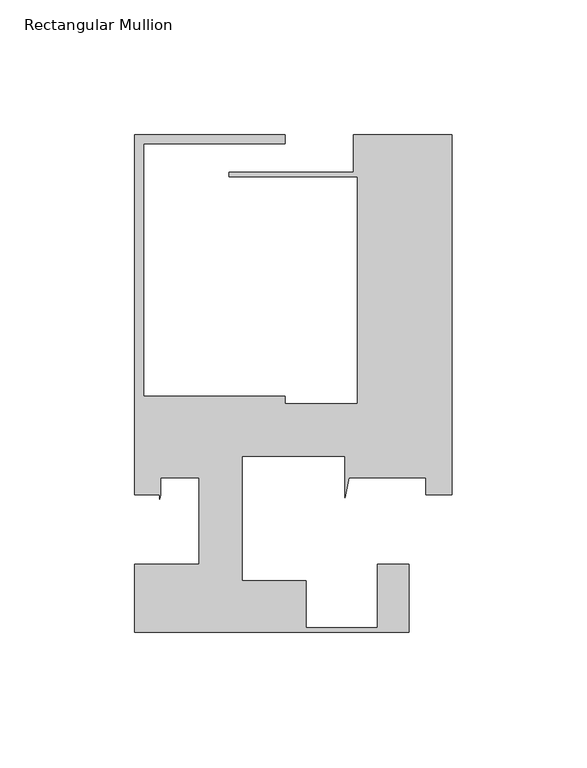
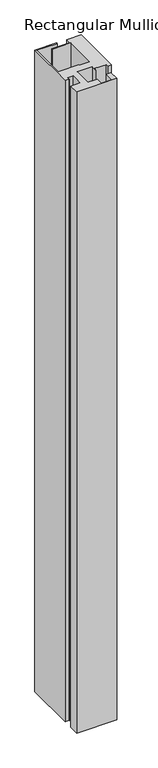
"""IFC4 building model written with IfcOpenShell, lengths in millimetres: member geometry, Rectangular Mullion : Captured Chicken Head Stack."""

import ifcopenshell
import ifcopenshell.guid

model = None  # the IFC model being written
_history = None  # IfcOwnerHistory: only IFC2X3 demands one
_inside = {}  # id of a spatial element -> (the spatial element, [elements in it])
_under = {}  # id of a project, library or spatial element -> (it, [spatial elements below it])
_declared = {}  # id of a project -> (the project, [libraries it declares])
_typed = {}  # id of a type object -> (the type object, [elements of that type])
_made_of = {}  # id of a material, layer set ... -> (it, [elements and type objects made of it])


def new_model(schema):
    """Start an empty IFC model of exactly this schema.

    Asked for "IFC4X3", IfcOpenShell would pick the latest addendum, in which some entities
    have other attributes; the version numbers below select the first issue.
    IFC2X3 requires an IfcOwnerHistory on every rooted entity: one is made here for all.
    """
    global model, _history
    if schema == "IFC4X3":
        model = ifcopenshell.file(schema_version=(4, 3, 0, 0))
    else:
        model = ifcopenshell.file(schema=schema)
    _inside.clear()
    _under.clear()
    _declared.clear()
    _typed.clear()
    _made_of.clear()
    _history = None
    if model.schema == "IFC2X3":
        org = make("IfcOrganization", Name="unknown")
        user = make(
            "IfcPersonAndOrganization",
            ThePerson=make("IfcPerson", FamilyName="unknown"),
            TheOrganization=org,
        )
        app = make(
            "IfcApplication",
            ApplicationDeveloper=org,
            Version="unknown",
            ApplicationFullName="unknown",
            ApplicationIdentifier="unknown",
        )
        _history = make(
            "IfcOwnerHistory",
            OwningUser=user,
            OwningApplication=app,
            ChangeAction="ADDED",
            CreationDate=0,
        )
    return model


def make(cls, **values):
    """One entity of the class cls with the attributes given. An attribute that is None is left unset."""
    return model.create_entity(
        cls, **{name: value for name, value in values.items() if value is not None}
    )


def rooted(cls, **values):
    """An entity with a GlobalId (a new one), such as an element, a storey or a relation."""
    return make(cls, GlobalId=ifcopenshell.guid.new(), OwnerHistory=_history, **values)


def si_unit(unit_type, name, prefix=None):
    """IfcSIUnit, for example si_unit("LENGTHUNIT", "METRE", prefix="MILLI")."""
    return make("IfcSIUnit", UnitType=unit_type, Prefix=prefix, Name=name)


def assignment(units):
    """IfcUnitAssignment: the units of a project."""
    return None if units is None else make("IfcUnitAssignment", Units=units)


def point(xyz):
    """IfcCartesianPoint."""
    return None if xyz is None else make("IfcCartesianPoint", Coordinates=xyz)


def direction(xyz):
    """IfcDirection."""
    return None if xyz is None else make("IfcDirection", DirectionRatios=xyz)


def frame(location, z_axis=None, x_axis=None):
    """IfcAxis2Placement3D, a coordinate frame: its origin and axes. An axis left out is left unset."""
    return make(
        "IfcAxis2Placement3D",
        Location=point(location),
        Axis=direction(z_axis),
        RefDirection=direction(x_axis),
    )


def origin():
    """The frame at (0, 0, 0) with its axes left unset."""
    return frame((0.0, 0.0, 0.0))


def place(relative_to, where):
    """IfcLocalPlacement: puts the frame where relative to a parent placement (None: the world)."""
    return make(
        "IfcLocalPlacement", PlacementRelTo=relative_to, RelativePlacement=where
    )


def context(
    kind, dimensions, precision=None, world=None, true_north=None, identifier=None
):
    """IfcGeometricRepresentationContext, for example the 3D "Model" context."""
    return make(
        "IfcGeometricRepresentationContext",
        ContextIdentifier=identifier,
        ContextType=kind,
        CoordinateSpaceDimension=dimensions,
        Precision=precision,
        WorldCoordinateSystem=world,
        TrueNorth=true_north,
    )


def project(units=None, contexts=None):
    """IfcProject with its units and contexts."""
    return rooted(
        "IfcProject",
        Name="project",
        RepresentationContexts=contexts,
        UnitsInContext=assignment(units),
    )


def spatial(cls, under=None, at=None, **own):
    """A site, building, storey or space (cls), placed at a placement, below another one or the project."""
    s = rooted(cls, ObjectPlacement=at, **own)
    if under is not None:
        _under.setdefault(under.id(), (under, []))[1].append(s)
    return s


def polyline(points):
    """IfcPolyline through the points."""
    return make("IfcPolyline", Points=[point(p) for p in points])


def outline(outer, holes=None, kind="AREA"):
    """IfcArbitraryClosedProfileDef: a profile drawn as a closed curve; with holes, ...WithVoids."""
    if holes is None:
        return make("IfcArbitraryClosedProfileDef", ProfileType=kind, OuterCurve=outer)
    return make(
        "IfcArbitraryProfileDefWithVoids",
        ProfileType=kind,
        OuterCurve=outer,
        InnerCurves=holes,
    )


def extrude(swept, where, along, depth):
    """IfcExtrudedAreaSolid: the profile swept, set in the frame where, extruded along a direction by depth."""
    return make(
        "IfcExtrudedAreaSolid",
        SweptArea=swept,
        Position=where,
        ExtrudedDirection=direction(along),
        Depth=depth,
    )


def shape(context_of_items, identifier, shape_type, items):
    """IfcShapeRepresentation: the items that make up one representation, for example the "Body"."""
    return make(
        "IfcShapeRepresentation",
        ContextOfItems=context_of_items,
        RepresentationIdentifier=identifier,
        RepresentationType=shape_type,
        Items=items,
    )


def source(mapping_origin, context_of_items, identifier, shape_type, items):
    """IfcRepresentationMap: a shape defined once, which mapped items show again and again."""
    return make(
        "IfcRepresentationMap",
        MappingOrigin=mapping_origin,
        MappedRepresentation=shape(context_of_items, identifier, shape_type, items),
    )


def transform(
    local_origin,
    x_axis=None,
    y_axis=None,
    z_axis=None,
    scale=None,
    scale2=None,
    scale3=None,
    uniform=True,
):
    """IfcCartesianTransformationOperator3D, or its non-uniform kind. x_axis, y_axis, z_axis: its Axis1, 2, 3."""
    if uniform:
        return make(
            "IfcCartesianTransformationOperator3D",
            Axis1=direction(x_axis),
            Axis2=direction(y_axis),
            LocalOrigin=point(local_origin),
            Scale=scale,
            Axis3=direction(z_axis),
        )
    return make(
        "IfcCartesianTransformationOperator3DnonUniform",
        Axis1=direction(x_axis),
        Axis2=direction(y_axis),
        LocalOrigin=point(local_origin),
        Scale=scale,
        Axis3=direction(z_axis),
        Scale2=scale2,
        Scale3=scale3,
    )


def mapped(mapping_source, mapping_target):
    """IfcMappedItem: shows the shape of a source again, moved by a transform."""
    return make(
        "IfcMappedItem", MappingSource=mapping_source, MappingTarget=mapping_target
    )


def made_of(thing, what):
    """Note that an element or type object is made of a material, layer set ...; save() writes the relation."""
    if what is not None:
        _made_of.setdefault(what.id(), (what, []))[1].append(thing)
    return thing


def element(
    cls,
    number,
    at=None,
    inside=None,
    cuts=None,
    type_object=None,
    material=None,
    context=None,
    identifier="Body",
    shape_type=None,
    held_by="IfcProductDefinitionShape",
    body=None,
    shapes=None,
    **own,
):
    """One element of the class cls, such as IfcWall. Its Tag is "e" and its number.

    at: its placement. inside: the storey or other place that contains it. cuts: it is an
    opening in that element (IfcRelVoidsElement). A single representation is given by context,
    identifier, shape_type and body (its items); several are given by shapes. held_by: the class
    of the entity that holds the representations. save() writes the other relations.
    """
    e = rooted(cls, Tag="e%d" % number, ObjectPlacement=at, **own)
    if body is not None:
        shapes = [shape(context, identifier, shape_type, body)]
    if shapes is not None:
        e.Representation = make(held_by, Representations=shapes)
    if inside is not None:
        _inside.setdefault(inside.id(), (inside, []))[1].append(e)
    if cuts is not None:
        rooted(
            "IfcRelVoidsElement", RelatingBuildingElement=cuts, RelatedOpeningElement=e
        )
    if type_object is not None:
        _typed.setdefault(type_object.id(), (type_object, []))[1].append(e)
    return made_of(e, material)


def aggregate(whole, parts):
    """IfcRelAggregates: a whole, such as a stair, and the parts it consists of."""
    return rooted("IfcRelAggregates", RelatingObject=whole, RelatedObjects=parts)


def save(model, path):
    """Write the relations noted so far, then the file.

    IfcRelAggregates (storeys below a building ...), IfcRelContainedInSpatialStructure (elements
    in a storey), IfcRelDefinesByType, IfcRelAssociatesMaterial and IfcRelDeclares: one each for
    every whole, place, type object, material and project.
    """
    for whole, parts in _under.values():
        aggregate(whole, parts)
    for where, things in _inside.values():
        rooted(
            "IfcRelContainedInSpatialStructure",
            RelatedElements=things,
            RelatingStructure=where,
        )
    for kind, things in _typed.values():
        rooted("IfcRelDefinesByType", RelatedObjects=things, RelatingType=kind)
    for what, things in _made_of.values():
        rooted("IfcRelAssociatesMaterial", RelatedObjects=things, RelatingMaterial=what)
    for by, libraries in _declared.values():
        rooted("IfcRelDeclares", RelatingContext=by, RelatedDefinitions=libraries)
    model.write(path)


def rectangular_mullion_937c725f(model_context):
    return source(origin(), model_context, "Body", "SweptSolid", [
        extrude(outline(polyline([(-61.8998316, 114.30254), (-61.8998316, 111.1275493), (-114.2999537, 111.1275493), (-114.2999537, 17.4529386), (-61.8998316, 17.4529386), (-61.8998316, 14.7454592), (-34.9249745, 14.7454592), (-34.9249745, 98.8645), (-82.5631556, 98.8645), (-82.5631556, 100.4392965), (-36.5130248, 100.4392965), (-36.5130248, 114.30254), (0.0, 114.30254), (0.0, -19.0105392), (-9.5249909, -19.0105392), (-9.5249909, -12.7), (-38.1999639, -12.7), (-39.6874745, -19.9856123), (-39.6874745, -4.7624076), (-77.7875, -4.7624076), (-77.7875, -50.8), (-53.9750123, -50.8), (-53.9750123, -68.2751632), (-27.6414131, -68.2751632), (-27.6414131, -44.7665099), (-15.8431035, -44.7665099), (-15.8431035, -69.8499672), (-117.4750025, -69.8499672), (-117.4750025, -44.7665099), (-93.6624995, -44.7665099), (-93.6624995, -12.699996), (-107.9500091, -12.699996), (-107.9500091, -19.05), (-108.3471992, -20.5435829), (-108.3471992, -18.9450334), (-117.475, -18.9450334), (-117.475, 114.30254), (-61.8998316, 114.30254)])), frame((0.0, 0.0, -1727.2), z_axis=(0.0, 0.0, 1.0), x_axis=(1.0, 0.0, 0.0)), (0.0, 0.0, 1.0), 1727.2),
    ])


if __name__ == "__main__":
    model = new_model("IFC4")
    model_context = context("Model", 3, world=origin())
    ifc_project = project(units=[si_unit("LENGTHUNIT", "METRE", prefix="MILLI")], contexts=[model_context])
    site = spatial("IfcSite", under=ifc_project)
    building = spatial("IfcBuilding", under=site)
    placement = place(None, origin())
    rectangular_mullion_shape = rectangular_mullion_937c725f(model_context)
    element("IfcMember", 1, ObjectType="Rectangular Mullion : Captured Chicken Head Stack", at=placement, inside=building, context=model_context, shape_type="MappedRepresentation", body=[
        mapped(rectangular_mullion_shape, transform((0.0, 0.0, 0.0), x_axis=(1.0, 0.0, 0.0), y_axis=(0.0, 1.0, 0.0), z_axis=(0.0, 0.0, 1.0))),
    ])
    save(model, "model.ifc")
